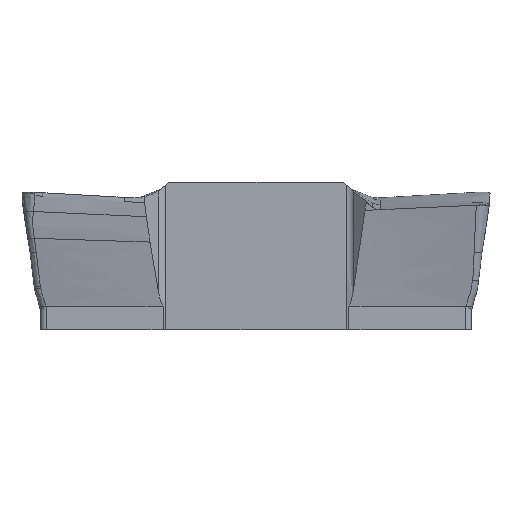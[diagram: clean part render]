
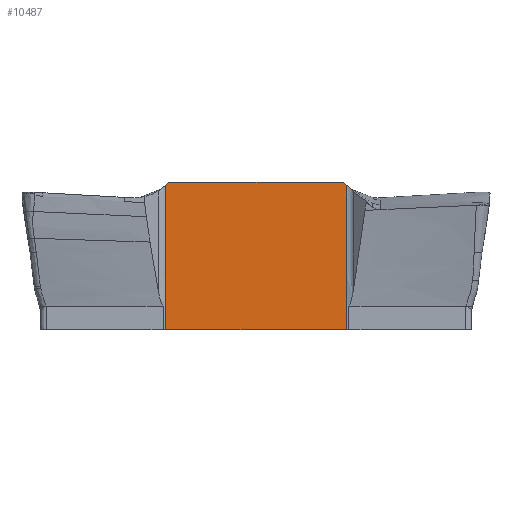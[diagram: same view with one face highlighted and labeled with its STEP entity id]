
A CAD part, left-side view. The second image highlights one B-rep face of the part: STEP entity #10487.
In plain terms, the highlighted face is a extrusion surface.
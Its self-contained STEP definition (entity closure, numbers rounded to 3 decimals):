
#6229=CARTESIAN_POINT('Vertex',(-1.65,5.816,-5.343)) ;
#6233=CARTESIAN_POINT('Control Point',(-1.65,9.758,-5.343)) ;
#6234=CARTESIAN_POINT('Control Point',(-1.65,9.706,-5.343)) ;
#6235=CARTESIAN_POINT('Control Point',(-1.65,9.655,-5.343)) ;
#6236=CARTESIAN_POINT('Control Point',(-1.65,9.603,-5.343)) ;
#6237=CARTESIAN_POINT('Control Point',(-1.65,8.826,-5.343)) ;
#6238=CARTESIAN_POINT('Control Point',(-1.65,8.048,-5.343)) ;
#6239=CARTESIAN_POINT('Control Point',(-1.65,7.322,-5.343)) ;
#6240=CARTESIAN_POINT('Control Point',(-1.65,6.585,-5.343)) ;
#6241=CARTESIAN_POINT('Control Point',(-1.65,5.848,-5.343)) ;
#6242=CARTESIAN_POINT('Control Point',(-1.65,5.837,-5.343)) ;
#6243=CARTESIAN_POINT('Control Point',(-1.65,5.827,-5.343)) ;
#6244=CARTESIAN_POINT('Control Point',(-1.65,5.816,-5.343)) ;
#6245=CARTESIAN_POINT('Vertex',(-1.65,9.758,-5.343)) ;
#6249=CARTESIAN_POINT('Control Point',(-1.65,13.219,-5.343)) ;
#6250=CARTESIAN_POINT('Control Point',(-1.65,12.527,-5.343)) ;
#6251=CARTESIAN_POINT('Control Point',(-1.65,11.834,-5.343)) ;
#6252=CARTESIAN_POINT('Control Point',(-1.65,11.142,-5.343)) ;
#6253=CARTESIAN_POINT('Control Point',(-1.65,10.45,-5.343)) ;
#6254=CARTESIAN_POINT('Control Point',(-1.65,9.758,-5.343)) ;
#6255=CARTESIAN_POINT('Vertex',(-1.65,13.219,-5.343)) ;
#8160=CARTESIAN_POINT('Line Origine',(-1.65,13.219,-2.165)) ;
#8164=CARTESIAN_POINT('Vertex',(-1.65,13.219,0.546)) ;
#10408=CARTESIAN_POINT('Vertex',(-1.65,5.816,0.546)) ;
#10412=CARTESIAN_POINT('Control Point',(-1.65,5.816,-5.343)) ;
#10413=CARTESIAN_POINT('Control Point',(-1.65,5.816,0.546)) ;
#10425=CARTESIAN_POINT('Control Point',(-1.65,5.816,4.835)) ;
#10426=CARTESIAN_POINT('Control Point',(-1.65,7.296,4.835)) ;
#10427=CARTESIAN_POINT('Control Point',(-1.65,8.777,4.835)) ;
#10428=CARTESIAN_POINT('Control Point',(-1.65,10.258,4.835)) ;
#10429=CARTESIAN_POINT('Control Point',(-1.65,11.738,4.835)) ;
#10430=CARTESIAN_POINT('Control Point',(-1.65,13.219,4.835)) ;
#10435=CARTESIAN_POINT('Control Point',(-1.65,5.816,0.546)) ;
#10436=CARTESIAN_POINT('Control Point',(-1.65,5.981,0.685)) ;
#10437=CARTESIAN_POINT('Vertex',(-1.65,5.981,0.685)) ;
#10441=CARTESIAN_POINT('Control Point',(-1.65,5.981,0.685)) ;
#10442=CARTESIAN_POINT('Control Point',(-1.65,6.688,0.685)) ;
#10443=CARTESIAN_POINT('Control Point',(-1.65,7.396,0.685)) ;
#10444=CARTESIAN_POINT('Control Point',(-1.65,8.103,0.685)) ;
#10445=CARTESIAN_POINT('Control Point',(-1.65,8.81,0.685)) ;
#10446=CARTESIAN_POINT('Control Point',(-1.65,9.517,0.685)) ;
#10447=CARTESIAN_POINT('Vertex',(-1.65,9.517,0.685)) ;
#10451=CARTESIAN_POINT('Control Point',(-1.65,9.517,0.686)) ;
#10452=CARTESIAN_POINT('Control Point',(-1.65,10.224,0.686)) ;
#10453=CARTESIAN_POINT('Control Point',(-1.65,10.931,0.686)) ;
#10454=CARTESIAN_POINT('Control Point',(-1.65,11.638,0.686)) ;
#10455=CARTESIAN_POINT('Control Point',(-1.65,12.345,0.686)) ;
#10456=CARTESIAN_POINT('Control Point',(-1.65,13.052,0.686)) ;
#10457=CARTESIAN_POINT('Vertex',(-1.65,13.052,0.685)) ;
#10461=CARTESIAN_POINT('Control Point',(-1.65,13.052,0.685)) ;
#10462=CARTESIAN_POINT('Control Point',(-1.65,13.052,0.685)) ;
#10463=CARTESIAN_POINT('Control Point',(-1.65,13.052,0.685)) ;
#10464=CARTESIAN_POINT('Control Point',(-1.65,13.053,0.685)) ;
#10465=CARTESIAN_POINT('Control Point',(-1.65,13.053,0.685)) ;
#10466=CARTESIAN_POINT('Control Point',(-1.65,13.053,0.685)) ;
#10467=CARTESIAN_POINT('Vertex',(-1.65,13.053,0.685)) ;
#10471=CARTESIAN_POINT('Control Point',(-1.65,13.053,0.685)) ;
#10472=CARTESIAN_POINT('Control Point',(-1.65,13.108,0.639)) ;
#10473=CARTESIAN_POINT('Control Point',(-1.65,13.164,0.593)) ;
#10474=CARTESIAN_POINT('Control Point',(-1.65,13.219,0.546)) ;
#8161=DIRECTION('Vector Direction',(0.,0.,-1.)) ;
#10431=DIRECTION('Vector Direction',(0.,0.,-1.)) ;
#8162=VECTOR('Line Direction',#8161,1.) ;
#10432=VECTOR('Extrusion Surface Vector',#10431,1.) ;
#10477=ORIENTED_EDGE('',*,*,#10439,.T.) ;
#10478=ORIENTED_EDGE('',*,*,#10449,.T.) ;
#10479=ORIENTED_EDGE('',*,*,#10459,.T.) ;
#10480=ORIENTED_EDGE('',*,*,#10469,.T.) ;
#10481=ORIENTED_EDGE('',*,*,#10475,.T.) ;
#10482=ORIENTED_EDGE('',*,*,#8166,.T.) ;
#10483=ORIENTED_EDGE('',*,*,#6257,.T.) ;
#10484=ORIENTED_EDGE('',*,*,#6247,.T.) ;
#10485=ORIENTED_EDGE('',*,*,#10414,.T.) ;
#10487=ADVANCED_FACE('CUT',(#10486),#10433,.T.) ;
#6232=B_SPLINE_CURVE_WITH_KNOTS('',5,(#6233,#6234,#6235,#6236,#6237,#6238,#6239,#6240,#6241,#6242,#6243,#6244),.UNSPECIFIED.,.F.,.U.,(6,3,3,6),(5.478,5.886,11.632,11.718),.UNSPECIFIED.) ;
#6248=B_SPLINE_CURVE_WITH_KNOTS('',5,(#6249,#6250,#6251,#6252,#6253,#6254),.UNSPECIFIED.,.F.,.U.,(6,6),(0.,5.478),.UNSPECIFIED.) ;
#10411=B_SPLINE_CURVE_WITH_KNOTS('',1,(#10412,#10413),.UNSPECIFIED.,.F.,.U.,(2,2),(-3.01,2.879),.UNSPECIFIED.) ;
#10424=B_SPLINE_CURVE_WITH_KNOTS('',5,(#10425,#10426,#10427,#10428,#10429,#10430),.UNSPECIFIED.,.F.,.U.,(6,6),(5.911,14.806),.UNSPECIFIED.) ;
#10434=B_SPLINE_CURVE_WITH_KNOTS('',1,(#10435,#10436),.UNSPECIFIED.,.F.,.U.,(2,2),(-0.226,0.02),.UNSPECIFIED.) ;
#10440=B_SPLINE_CURVE_WITH_KNOTS('',5,(#10441,#10442,#10443,#10444,#10445,#10446),.UNSPECIFIED.,.F.,.U.,(6,6),(0.225,4.564),.UNSPECIFIED.) ;
#10450=B_SPLINE_CURVE_WITH_KNOTS('',5,(#10451,#10452,#10453,#10454,#10455,#10456),.UNSPECIFIED.,.F.,.U.,(6,6),(4.564,8.901),.UNSPECIFIED.) ;
#10460=B_SPLINE_CURVE_WITH_KNOTS('',5,(#10461,#10462,#10463,#10464,#10465,#10466),.UNSPECIFIED.,.F.,.U.,(6,6),(8.901,8.902),.UNSPECIFIED.) ;
#10470=B_SPLINE_CURVE_WITH_KNOTS('',3,(#10471,#10472,#10473,#10474),.UNSPECIFIED.,.F.,.U.,(4,4),(0.287,0.659),.UNSPECIFIED.) ;
#6247=EDGE_CURVE('',#6246,#6230,#6232,.T.) ;
#6257=EDGE_CURVE('',#6256,#6246,#6248,.T.) ;
#8166=EDGE_CURVE('',#8165,#6256,#8163,.T.) ;
#10414=EDGE_CURVE('',#6230,#10409,#10411,.T.) ;
#10439=EDGE_CURVE('',#10409,#10438,#10434,.T.) ;
#10449=EDGE_CURVE('',#10438,#10448,#10440,.T.) ;
#10459=EDGE_CURVE('',#10448,#10458,#10450,.T.) ;
#10469=EDGE_CURVE('',#10458,#10468,#10460,.T.) ;
#10475=EDGE_CURVE('',#10468,#8165,#10470,.T.) ;
#10476=EDGE_LOOP('',(#10477,#10478,#10479,#10480,#10481,#10482,#10483,#10484,#10485)) ;
#10486=FACE_OUTER_BOUND('',#10476,.T.) ;
#8163=LINE('Line',#8160,#8162) ;
#10433=SURFACE_OF_LINEAR_EXTRUSION('generated tabulated cylinder',#10424,#10432) ;
#6230=VERTEX_POINT('',#6229) ;
#6246=VERTEX_POINT('',#6245) ;
#6256=VERTEX_POINT('',#6255) ;
#8165=VERTEX_POINT('',#8164) ;
#10409=VERTEX_POINT('',#10408) ;
#10438=VERTEX_POINT('',#10437) ;
#10448=VERTEX_POINT('',#10447) ;
#10458=VERTEX_POINT('',#10457) ;
#10468=VERTEX_POINT('',#10467) ;
